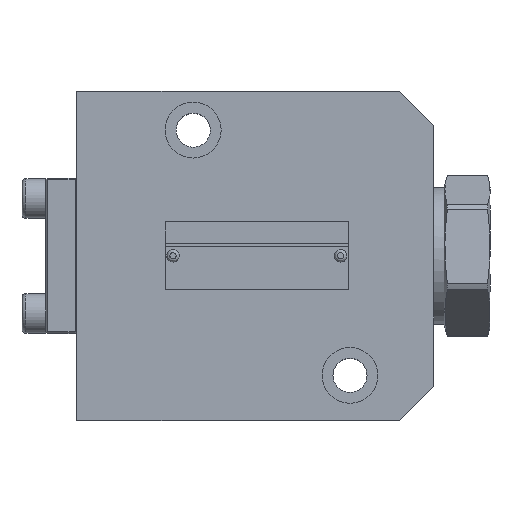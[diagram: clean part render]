
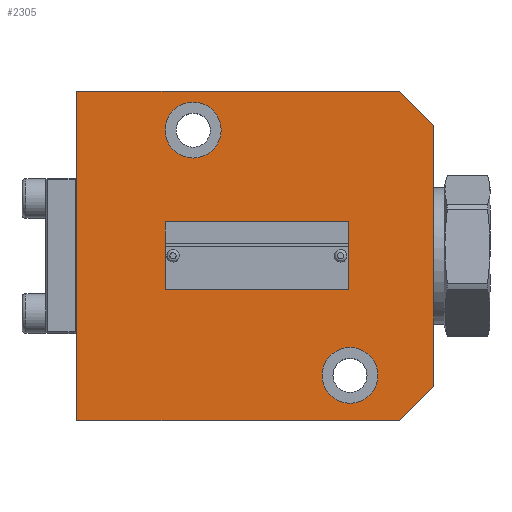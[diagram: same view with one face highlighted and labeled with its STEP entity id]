
A CAD part, top view. The second image highlights one B-rep face of the part: STEP entity #2305.
In plain terms, the highlighted planar face has unit normal (0, 0, 1).
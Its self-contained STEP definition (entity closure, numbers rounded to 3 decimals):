
#460=LINE('',#14321,#808);
#463=LINE('',#14335,#811);
#466=LINE('',#14341,#814);
#469=LINE('',#14349,#817);
#472=LINE('',#14355,#820);
#475=LINE('',#14368,#823);
#808=VECTOR('',#6850,1.);
#811=VECTOR('',#6863,1.);
#814=VECTOR('',#6868,1.);
#817=VECTOR('',#6875,1.);
#820=VECTOR('',#6880,1.);
#823=VECTOR('',#6893,1.);
#2037=PLANE('',#6262);
#2305=ADVANCED_FACE('',(#2672,#2673,#2674,#2675,#2676),#2037,.T.);
#2672=FACE_BOUND('',#2961,.T.);
#2673=FACE_BOUND('',#2962,.T.);
#2674=FACE_BOUND('',#2963,.T.);
#2675=FACE_BOUND('',#2964,.T.);
#2676=FACE_BOUND('',#2965,.T.);
#2961=EDGE_LOOP('',(#3579));
#2962=EDGE_LOOP('',(#3580));
#2963=EDGE_LOOP('',(#3581));
#2964=EDGE_LOOP('',(#3582));
#2965=EDGE_LOOP('',(#3583,#3584,#3585,#3586,#3587,#3588));
#3579=ORIENTED_EDGE('',*,*,#5425,.T.);
#3580=ORIENTED_EDGE('',*,*,#5426,.T.);
#3581=ORIENTED_EDGE('',*,*,#5427,.F.);
#3582=ORIENTED_EDGE('',*,*,#5428,.F.);
#3583=ORIENTED_EDGE('',*,*,#5400,.F.);
#3584=ORIENTED_EDGE('',*,*,#5424,.F.);
#3585=ORIENTED_EDGE('',*,*,#5417,.F.);
#3586=ORIENTED_EDGE('',*,*,#5414,.F.);
#3587=ORIENTED_EDGE('',*,*,#5410,.F.);
#3588=ORIENTED_EDGE('',*,*,#5407,.F.);
#4887=VERTEX_POINT('',#14320);
#4888=VERTEX_POINT('',#14322);
#4894=VERTEX_POINT('',#14336);
#4896=VERTEX_POINT('',#14342);
#4899=VERTEX_POINT('',#14350);
#4901=VERTEX_POINT('',#14356);
#4906=VERTEX_POINT('',#14371);
#4907=VERTEX_POINT('',#14373);
#4908=VERTEX_POINT('',#14375);
#4909=VERTEX_POINT('',#14377);
#5400=EDGE_CURVE('',#4887,#4888,#460,.T.);
#5407=EDGE_CURVE('',#4888,#4894,#463,.T.);
#5410=EDGE_CURVE('',#4894,#4896,#466,.T.);
#5414=EDGE_CURVE('',#4896,#4899,#469,.T.);
#5417=EDGE_CURVE('',#4899,#4901,#472,.T.);
#5424=EDGE_CURVE('',#4901,#4887,#475,.T.);
#5425=EDGE_CURVE('',#4906,#4906,#6035,.T.);
#5426=EDGE_CURVE('',#4907,#4907,#6036,.T.);
#5427=EDGE_CURVE('',#4908,#4908,#6037,.T.);
#5428=EDGE_CURVE('',#4909,#4909,#6038,.T.);
#6035=CIRCLE('',#6258,0.9);
#6036=CIRCLE('',#6259,0.9);
#6037=CIRCLE('',#6260,9.);
#6038=CIRCLE('',#6261,9.);
#6258=AXIS2_PLACEMENT_3D('',#14370,#6896,#6897);
#6259=AXIS2_PLACEMENT_3D('',#14372,#6898,#6899);
#6260=AXIS2_PLACEMENT_3D('',#14374,#6900,#6901);
#6261=AXIS2_PLACEMENT_3D('',#14376,#6902,#6903);
#6262=AXIS2_PLACEMENT_3D('',#14378,#6904,#6905);
#6850=DIRECTION('',(0.,1.,0.));
#6863=DIRECTION('',(1.,0.,0.));
#6868=DIRECTION('',(0.707,-0.707,0.));
#6875=DIRECTION('',(0.,-1.,0.));
#6880=DIRECTION('',(-0.707,-0.707,0.));
#6893=DIRECTION('',(-1.,0.,0.));
#6896=DIRECTION('',(0.,0.,-1.));
#6897=DIRECTION('',(-1.,0.,0.));
#6898=DIRECTION('',(0.,0.,-1.));
#6899=DIRECTION('',(-1.,0.,0.));
#6900=DIRECTION('',(0.,0.,1.));
#6901=DIRECTION('',(1.,0.,0.));
#6902=DIRECTION('',(0.,0.,1.));
#6903=DIRECTION('',(1.,0.,0.));
#6904=DIRECTION('',(0.,0.,1.));
#6905=DIRECTION('',(-1.,0.,0.));
#14320=CARTESIAN_POINT('',(279.731,125.834,22.04));
#14321=CARTESIAN_POINT('',(279.731,125.834,22.04));
#14322=CARTESIAN_POINT('',(279.731,231.834,22.04));
#14335=CARTESIAN_POINT('',(279.731,231.834,22.04));
#14336=CARTESIAN_POINT('',(383.731,231.834,22.04));
#14341=CARTESIAN_POINT('',(383.731,231.834,22.04));
#14342=CARTESIAN_POINT('',(394.731,220.834,22.04));
#14349=CARTESIAN_POINT('',(394.731,220.834,22.04));
#14350=CARTESIAN_POINT('',(394.731,136.834,22.04));
#14355=CARTESIAN_POINT('',(394.731,136.834,22.04));
#14356=CARTESIAN_POINT('',(383.731,125.834,22.04));
#14368=CARTESIAN_POINT('',(383.731,125.834,22.04));
#14370=CARTESIAN_POINT('',(364.731,178.834,22.04));
#14371=CARTESIAN_POINT('',(363.831,178.834,22.04));
#14372=CARTESIAN_POINT('',(310.731,178.834,22.04));
#14373=CARTESIAN_POINT('',(309.831,178.834,22.04));
#14374=CARTESIAN_POINT('',(317.231,219.334,22.04));
#14375=CARTESIAN_POINT('',(326.231,219.334,22.04));
#14376=CARTESIAN_POINT('',(367.731,140.334,22.04));
#14377=CARTESIAN_POINT('',(376.731,140.334,22.04));
#14378=CARTESIAN_POINT('',(367.731,140.334,22.04));
